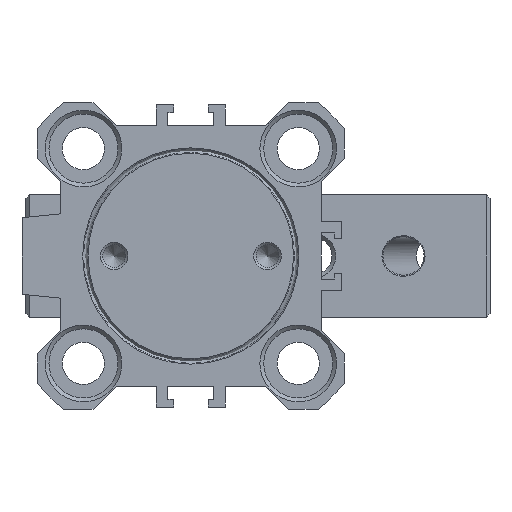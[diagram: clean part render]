
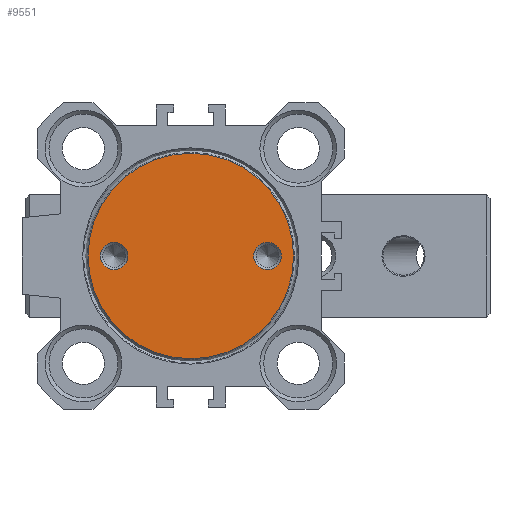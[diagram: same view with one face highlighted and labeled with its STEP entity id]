
A CAD part, front view. The second image highlights one B-rep face of the part: STEP entity #9551.
In plain terms, the highlighted planar face has unit normal (0, -1, 0).
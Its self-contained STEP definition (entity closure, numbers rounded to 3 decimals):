
#370=FACE_BOUND('',#1728,.T.);
#371=FACE_BOUND('',#1729,.T.);
#518=PLANE('',#10913);
#1134=FACE_OUTER_BOUND('',#1727,.T.);
#1727=EDGE_LOOP('',(#8544,#8545));
#1728=EDGE_LOOP('',(#8546,#8547));
#1729=EDGE_LOOP('',(#8548,#8549));
#3504=CIRCLE('',#10810,1.8);
#3505=CIRCLE('',#10811,1.8);
#3508=CIRCLE('',#10815,1.8);
#3509=CIRCLE('',#10816,1.8);
#3518=CIRCLE('',#10831,13.4);
#3519=CIRCLE('',#10832,13.4);
#4465=VERTEX_POINT('',#22101);
#4466=VERTEX_POINT('',#22103);
#4469=VERTEX_POINT('',#22111);
#4470=VERTEX_POINT('',#22113);
#4481=VERTEX_POINT('',#22189);
#4482=VERTEX_POINT('',#22191);
#5807=EDGE_CURVE('',#4466,#4465,#3504,.T.);
#5808=EDGE_CURVE('',#4465,#4466,#3505,.T.);
#5812=EDGE_CURVE('',#4470,#4469,#3508,.T.);
#5813=EDGE_CURVE('',#4469,#4470,#3509,.T.);
#5831=EDGE_CURVE('',#4481,#4482,#3518,.T.);
#5832=EDGE_CURVE('',#4482,#4481,#3519,.T.);
#8544=ORIENTED_EDGE('',*,*,#5832,.F.);
#8545=ORIENTED_EDGE('',*,*,#5831,.F.);
#8546=ORIENTED_EDGE('',*,*,#5812,.T.);
#8547=ORIENTED_EDGE('',*,*,#5813,.T.);
#8548=ORIENTED_EDGE('',*,*,#5807,.T.);
#8549=ORIENTED_EDGE('',*,*,#5808,.T.);
#9551=ADVANCED_FACE('',(#1134,#370,#371),#518,.F.);
#10810=AXIS2_PLACEMENT_3D('',#22104,#13523,#13524);
#10811=AXIS2_PLACEMENT_3D('',#22105,#13525,#13526);
#10815=AXIS2_PLACEMENT_3D('',#22114,#13534,#13535);
#10816=AXIS2_PLACEMENT_3D('',#22115,#13536,#13537);
#10831=AXIS2_PLACEMENT_3D('',#22192,#13573,#13574);
#10832=AXIS2_PLACEMENT_3D('',#22193,#13575,#13576);
#10913=AXIS2_PLACEMENT_3D('',#22328,#13745,#13746);
#13523=DIRECTION('center_axis',(0.,1.,0.));
#13524=DIRECTION('ref_axis',(0.,0.,1.));
#13525=DIRECTION('center_axis',(0.,1.,0.));
#13526=DIRECTION('ref_axis',(0.,0.,1.));
#13534=DIRECTION('center_axis',(0.,1.,0.));
#13535=DIRECTION('ref_axis',(0.,0.,1.));
#13536=DIRECTION('center_axis',(0.,1.,0.));
#13537=DIRECTION('ref_axis',(0.,0.,1.));
#13573=DIRECTION('center_axis',(0.,1.,0.));
#13574=DIRECTION('ref_axis',(0.,0.,1.));
#13575=DIRECTION('center_axis',(0.,1.,0.));
#13576=DIRECTION('ref_axis',(0.,0.,1.));
#13745=DIRECTION('center_axis',(0.,1.,0.));
#13746=DIRECTION('ref_axis',(0.,0.,1.));
#22101=CARTESIAN_POINT('',(36.741,71.078,1.8));
#22103=CARTESIAN_POINT('',(36.741,71.078,-1.8));
#22104=CARTESIAN_POINT('Origin',(36.741,71.078,0.));
#22105=CARTESIAN_POINT('Origin',(36.741,71.078,0.));
#22111=CARTESIAN_POINT('',(56.741,71.078,1.8));
#22113=CARTESIAN_POINT('',(56.741,71.078,-1.8));
#22114=CARTESIAN_POINT('Origin',(56.741,71.078,0.));
#22115=CARTESIAN_POINT('Origin',(56.741,71.078,0.));
#22189=CARTESIAN_POINT('',(46.741,71.078,-13.4));
#22191=CARTESIAN_POINT('',(46.741,71.078,13.4));
#22192=CARTESIAN_POINT('Origin',(46.741,71.078,0.));
#22193=CARTESIAN_POINT('Origin',(46.741,71.078,0.));
#22328=CARTESIAN_POINT('Origin',(58.241,71.078,0.));
